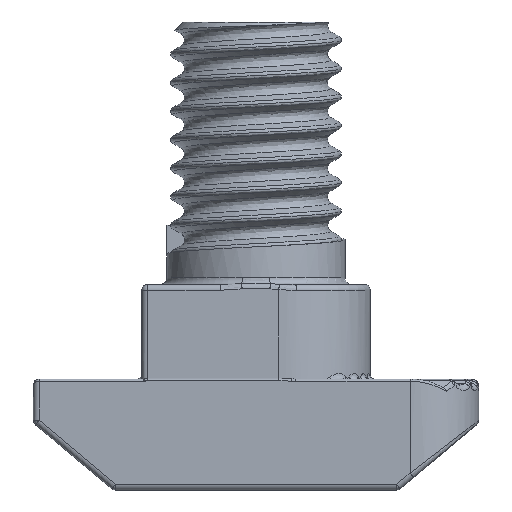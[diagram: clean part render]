
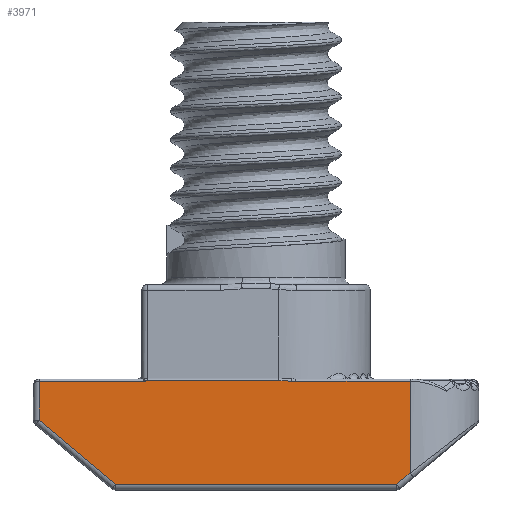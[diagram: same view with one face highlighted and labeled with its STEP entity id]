
A CAD part, front view. The second image highlights one B-rep face of the part: STEP entity #3971.
In plain terms, the highlighted planar face has unit normal (0, -1, 0).
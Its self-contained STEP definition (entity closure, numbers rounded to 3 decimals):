
#167 = CARTESIAN_POINT ( 'NONE',  ( -5.674, -3.853, 4.759 ) ) ;
#179 = CARTESIAN_POINT ( 'NONE',  ( -10.5, -3.853, 4.5 ) ) ;
#362 = VERTEX_POINT ( 'NONE', #10436 ) ;
#397 = PLANE ( 'NONE',  #992 ) ;
#398 = FACE_OUTER_BOUND ( 'NONE', #2841, .T. ) ;
#534 = CARTESIAN_POINT ( 'NONE',  ( -5.608, -3.853, 4.772 ) ) ;
#594 = CARTESIAN_POINT ( 'NONE',  ( -5.573, -3.853, 4.784 ) ) ;
#642 = VERTEX_POINT ( 'NONE', #2969 ) ;
#682 = CARTESIAN_POINT ( 'NONE',  ( 0.817, -3.853, 4.768 ) ) ;
#992 = AXIS2_PLACEMENT_3D ( 'NONE', #179, #8996, #1614 ) ;
#1049 = ORIENTED_EDGE ( 'NONE', *, *, #3254, .T. ) ;
#1121 = CARTESIAN_POINT ( 'NONE',  ( -10.25, -3.853, 4.759 ) ) ;
#1221 = ORIENTED_EDGE ( 'NONE', *, *, #5748, .T. ) ;
#1344 = CARTESIAN_POINT ( 'NONE',  ( -5.608, -3.853, 4.772 ) ) ;
#1429 = ORIENTED_EDGE ( 'NONE', *, *, #9088, .T. ) ;
#1504 = LINE ( 'NONE', #13839, #14291 ) ;
#1614 = DIRECTION ( 'NONE',  ( 0., 0., 1. ) ) ;
#1692 = CARTESIAN_POINT ( 'NONE',  ( -10.25, -3.853, 4.759 ) ) ;
#1880 = LINE ( 'NONE', #12051, #11373 ) ;
#1908 = CARTESIAN_POINT ( 'NONE',  ( 0.383, -3.853, 4.789 ) ) ;
#2062 = LINE ( 'NONE', #3700, #14097 ) ;
#2483 = B_SPLINE_CURVE_WITH_KNOTS ( 'NONE', 3,
 ( #15349, #11664, #594, #9205 ),
 .UNSPECIFIED., .F., .F.,
 ( 4, 4 ),
 ( 0., 0. ),
 .UNSPECIFIED. ) ;
#2540 = CARTESIAN_POINT ( 'NONE',  ( -5.624, -3.853, 4.767 ) ) ;
#2786 = ORIENTED_EDGE ( 'NONE', *, *, #3553, .T. ) ;
#2841 = EDGE_LOOP ( 'NONE', ( #10520, #9608, #7261, #5577, #6019, #13496, #4279, #2786, #2915, #1429, #1221, #1049 ) ) ;
#2863 = LINE ( 'NONE', #15842, #5769 ) ;
#2915 = ORIENTED_EDGE ( 'NONE', *, *, #9896, .T. ) ;
#2969 = CARTESIAN_POINT ( 'NONE',  ( 6., -3.853, 4.759 ) ) ;
#3107 = CARTESIAN_POINT ( 'NONE',  ( 0.25, -3.853, 4.79 ) ) ;
#3254 = EDGE_CURVE ( 'NONE', #12672, #11292, #2863, .T. ) ;
#3323 = CARTESIAN_POINT ( 'NONE',  ( 0.977, -3.853, 4.759 ) ) ;
#3553 = EDGE_CURVE ( 'NONE', #10159, #4352, #10842, .T. ) ;
#3573 = VERTEX_POINT ( 'NONE', #5393 ) ;
#3700 = CARTESIAN_POINT ( 'NONE',  ( -10.5, -3.853, 0.25 ) ) ;
#3771 = EDGE_CURVE ( 'NONE', #8540, #362, #9276, .T. ) ;
#3971 = ADVANCED_FACE ( 'NONE', ( #398 ), #397, .F. ) ;
#4279 = ORIENTED_EDGE ( 'NONE', *, *, #14096, .T. ) ;
#4352 = VERTEX_POINT ( 'NONE', #1121 ) ;
#4524 = CARTESIAN_POINT ( 'NONE',  ( 0.992, -3.853, 4.759 ) ) ;
#4585 = CARTESIAN_POINT ( 'NONE',  ( 0.92, -3.853, 4.761 ) ) ;
#4605 = EDGE_CURVE ( 'NONE', #14550, #8540, #8703, .T. ) ;
#4854 = VERTEX_POINT ( 'NONE', #8457 ) ;
#4963 = DIRECTION ( 'NONE',  ( 1., 0., 0. ) ) ;
#5182 = VECTOR ( 'NONE', #7255, 1000. ) ;
#5345 = EDGE_CURVE ( 'NONE', #642, #4854, #1504, .T. ) ;
#5393 = CARTESIAN_POINT ( 'NONE',  ( -6.909, -3.853, 0.25 ) ) ;
#5506 = CARTESIAN_POINT ( 'NONE',  ( -6.839, -3.853, 0.192 ) ) ;
#5577 = ORIENTED_EDGE ( 'NONE', *, *, #4605, .T. ) ;
#5748 = EDGE_CURVE ( 'NONE', #3573, #12672, #2062, .T. ) ;
#5769 = VECTOR ( 'NONE', #11061, 1000. ) ;
#5824 = CARTESIAN_POINT ( 'NONE',  ( 0.867, -3.853, 4.764 ) ) ;
#6019 = ORIENTED_EDGE ( 'NONE', *, *, #3771, .T. ) ;
#6084 = CARTESIAN_POINT ( 'NONE',  ( 0.817, -3.853, 4.768 ) ) ;
#6262 = CARTESIAN_POINT ( 'NONE',  ( -5.658, -3.853, 4.76 ) ) ;
#6676 = CARTESIAN_POINT ( 'NONE',  ( -5.674, -3.853, 4.759 ) ) ;
#6788 = CARTESIAN_POINT ( 'NONE',  ( 0.695, -3.853, 4.777 ) ) ;
#7061 = CARTESIAN_POINT ( 'NONE',  ( 0.817, -3.853, 4.768 ) ) ;
#7079 = DIRECTION ( 'NONE',  ( 0., 0., -1. ) ) ;
#7255 = DIRECTION ( 'NONE',  ( -1., 0., 0. ) ) ;
#7261 = ORIENTED_EDGE ( 'NONE', *, *, #8752, .T. ) ;
#7519 = CARTESIAN_POINT ( 'NONE',  ( -5.669, -3.853, 4.759 ) ) ;
#8220 = CARTESIAN_POINT ( 'NONE',  ( 0.999, -3.853, 4.759 ) ) ;
#8436 = LINE ( 'NONE', #5506, #11002 ) ;
#8457 = CARTESIAN_POINT ( 'NONE',  ( 0.999, -3.853, 4.759 ) ) ;
#8540 = VERTEX_POINT ( 'NONE', #15794 ) ;
#8703 = B_SPLINE_CURVE_WITH_KNOTS ( 'NONE', 3,
 ( #682, #6788, #9258, #9307, #1908, #10561, #3107 ),
 .UNSPECIFIED., .F., .F.,
 ( 4, 3, 4 ),
 ( 0., 0., 0.001 ),
 .UNSPECIFIED. ) ;
#8752 = EDGE_CURVE ( 'NONE', #4854, #14550, #9109, .T. ) ;
#8996 = DIRECTION ( 'NONE',  ( 0., 1., 0. ) ) ;
#9034 = VERTEX_POINT ( 'NONE', #534 ) ;
#9088 = EDGE_CURVE ( 'NONE', #9750, #3573, #8436, .T. ) ;
#9109 = B_SPLINE_CURVE_WITH_KNOTS ( 'NONE', 3,
 ( #8220, #4524, #10794, #3323, #12035, #4585, #13281, #5824, #14531, #7061 ),
 .UNSPECIFIED., .F., .F.,
 ( 4, 3, 3, 4 ),
 ( 0., 0., 0., 0. ),
 .UNSPECIFIED. ) ;
#9168 = DIRECTION ( 'NONE',  ( -1., 0., 0. ) ) ;
#9199 = DIRECTION ( 'NONE',  ( 0.766, 0., -0.643 ) ) ;
#9205 = CARTESIAN_POINT ( 'NONE',  ( -5.608, -3.853, 4.772 ) ) ;
#9258 = CARTESIAN_POINT ( 'NONE',  ( 0.572, -3.853, 4.784 ) ) ;
#9276 = LINE ( 'NONE', #9760, #5182 ) ;
#9303 = CARTESIAN_POINT ( 'NONE',  ( 6., -3.853, 4.5 ) ) ;
#9307 = CARTESIAN_POINT ( 'NONE',  ( 0.45, -3.853, 4.787 ) ) ;
#9608 = ORIENTED_EDGE ( 'NONE', *, *, #5345, .T. ) ;
#9750 = VERTEX_POINT ( 'NONE', #11634 ) ;
#9760 = CARTESIAN_POINT ( 'NONE',  ( -10.5, -3.853, 4.79 ) ) ;
#9896 = EDGE_CURVE ( 'NONE', #4352, #9750, #1880, .T. ) ;
#10159 = VERTEX_POINT ( 'NONE', #6676 ) ;
#10338 = DIRECTION ( 'NONE',  ( -1., 0., 0. ) ) ;
#10436 = CARTESIAN_POINT ( 'NONE',  ( -5.5, -3.853, 4.79 ) ) ;
#10520 = ORIENTED_EDGE ( 'NONE', *, *, #11291, .T. ) ;
#10561 = CARTESIAN_POINT ( 'NONE',  ( 0.317, -3.853, 4.79 ) ) ;
#10794 = CARTESIAN_POINT ( 'NONE',  ( 0.984, -3.853, 4.759 ) ) ;
#10842 = LINE ( 'NONE', #1692, #13354 ) ;
#11002 = VECTOR ( 'NONE', #9199, 1000. ) ;
#11061 = DIRECTION ( 'NONE',  ( 0.766, 0., 0.643 ) ) ;
#11291 = EDGE_CURVE ( 'NONE', #11292, #642, #15792, .T. ) ;
#11292 = VERTEX_POINT ( 'NONE', #14303 ) ;
#11373 = VECTOR ( 'NONE', #7079, 1000. ) ;
#11634 = CARTESIAN_POINT ( 'NONE',  ( -10.25, -3.853, 3.053 ) ) ;
#11664 = CARTESIAN_POINT ( 'NONE',  ( -5.537, -3.853, 4.79 ) ) ;
#11847 = B_SPLINE_CURVE_WITH_KNOTS ( 'NONE', 3,
 ( #1344, #2540, #13730, #6262, #14983, #7519, #167 ),
 .UNSPECIFIED., .F., .F.,
 ( 4, 3, 4 ),
 ( 0., 0., 0. ),
 .UNSPECIFIED. ) ;
#12035 = CARTESIAN_POINT ( 'NONE',  ( 0.948, -3.853, 4.759 ) ) ;
#12051 = CARTESIAN_POINT ( 'NONE',  ( -10.25, -3.853, 4.5 ) ) ;
#12493 = VECTOR ( 'NONE', #15556, 1000. ) ;
#12672 = VERTEX_POINT ( 'NONE', #13946 ) ;
#13281 = CARTESIAN_POINT ( 'NONE',  ( 0.891, -3.853, 4.763 ) ) ;
#13354 = VECTOR ( 'NONE', #10338, 1000. ) ;
#13496 = ORIENTED_EDGE ( 'NONE', *, *, #14919, .T. ) ;
#13730 = CARTESIAN_POINT ( 'NONE',  ( -5.641, -3.853, 4.762 ) ) ;
#13839 = CARTESIAN_POINT ( 'NONE',  ( 6., -3.853, 4.759 ) ) ;
#13946 = CARTESIAN_POINT ( 'NONE',  ( 5.409, -3.853, 0.25 ) ) ;
#14096 = EDGE_CURVE ( 'NONE', #9034, #10159, #11847, .T. ) ;
#14097 = VECTOR ( 'NONE', #4963, 1000. ) ;
#14291 = VECTOR ( 'NONE', #9168, 1000. ) ;
#14303 = CARTESIAN_POINT ( 'NONE',  ( 6., -3.853, 0.746 ) ) ;
#14531 = CARTESIAN_POINT ( 'NONE',  ( 0.842, -3.853, 4.766 ) ) ;
#14550 = VERTEX_POINT ( 'NONE', #6084 ) ;
#14919 = EDGE_CURVE ( 'NONE', #362, #9034, #2483, .T. ) ;
#14983 = CARTESIAN_POINT ( 'NONE',  ( -5.663, -3.853, 4.759 ) ) ;
#15349 = CARTESIAN_POINT ( 'NONE',  ( -5.5, -3.853, 4.79 ) ) ;
#15556 = DIRECTION ( 'NONE',  ( 0., 0., 1. ) ) ;
#15792 = LINE ( 'NONE', #9303, #12493 ) ;
#15794 = CARTESIAN_POINT ( 'NONE',  ( 0.25, -3.853, 4.79 ) ) ;
#15842 = CARTESIAN_POINT ( 'NONE',  ( 5.839, -3.853, 0.611 ) ) ;
